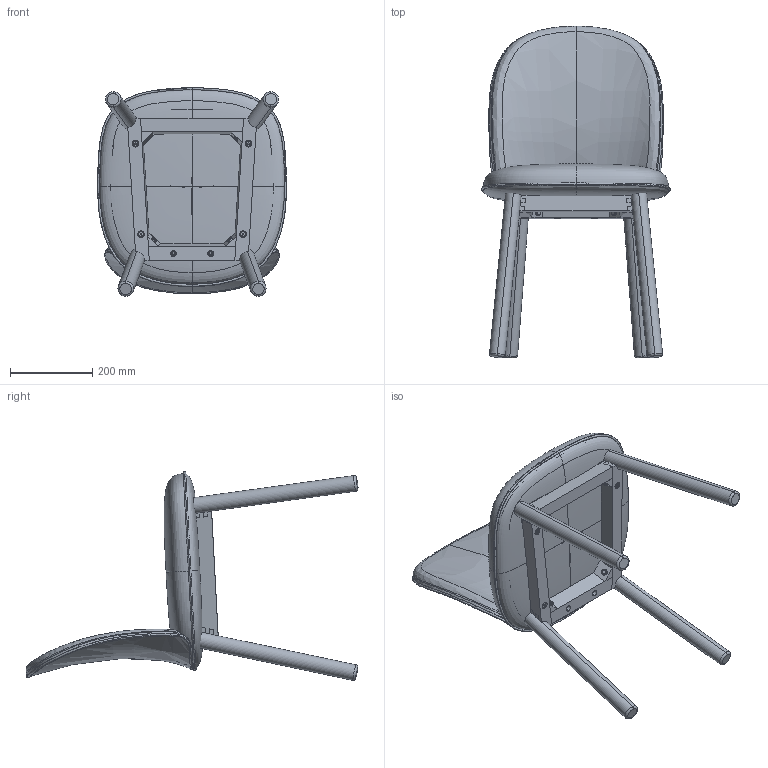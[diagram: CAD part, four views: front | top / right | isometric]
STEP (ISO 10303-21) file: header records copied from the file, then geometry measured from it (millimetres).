
FILE_DESCRIPTION (( 'STEP AP203' ), '1' );
FILE_NAME ('Ace - Dining chair.STEP', '2016-06-17T09:18:25', ( '' ), ( '' ), 'SwSTEP 2.0', 'SolidWorks 2014', '' );
FILE_SCHEMA (( 'CONFIG_CONTROL_DESIGN' ));
Products named in the file (1): Ace - Dining chair
Bounding box: 458.28 x 804.98 x 505.99 mm (x, y, z)
Volume: 20716165 mm3; surface area: 1874289.8 mm2
Topology: 36 solids, 36 shells, 629 faces, 1572 edges, 1009 vertices
Faces by surface type: plane 282, cylinder 172, bspline 140, cone 19, torus 16
Entity records: 113701 total; most frequent: CARTESIAN_POINT 100058, ORIENTED_EDGE 3128, DIRECTION 2237, EDGE_CURVE 1564, VERTEX_POINT 1009, AXIS2_PLACEMENT_3D 747, LINE 743, VECTOR 743
